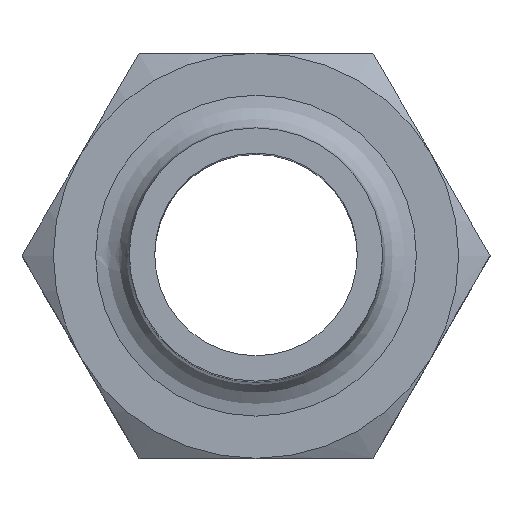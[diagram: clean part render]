
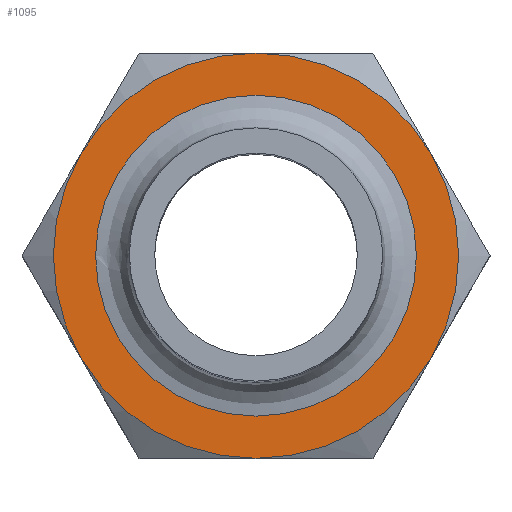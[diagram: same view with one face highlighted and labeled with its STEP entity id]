
A CAD part, top view. The second image highlights one B-rep face of the part: STEP entity #1095.
In plain terms, the highlighted planar face has unit normal (0, 0, 1).
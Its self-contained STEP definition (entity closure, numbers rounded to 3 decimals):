
#552=CARTESIAN_POINT('',(10.392,6.,21.0));
#553=VERTEX_POINT('',#552);
#567=CARTESIAN_POINT('',(0.0,12.,21.0));
#568=VERTEX_POINT('',#567);
#582=CARTESIAN_POINT('',(0.0,0.,21.0));
#583=DIRECTION('',(0.0,0.0,1.0));
#584=DIRECTION('',(0.0,-1.0,0.0));
#585=AXIS2_PLACEMENT_3D('',#582,#583,#584);
#586=CIRCLE('',#585,12.);
#587=EDGE_CURVE('',#553,#568,#586,.T.);
#599=CARTESIAN_POINT('',(10.392,-6.,21.0));
#600=VERTEX_POINT('',#599);
#627=CARTESIAN_POINT('',(0.0,0.,21.0));
#628=DIRECTION('',(0.0,0.0,1.0));
#629=DIRECTION('',(0.0,-1.0,0.0));
#630=AXIS2_PLACEMENT_3D('',#627,#628,#629);
#631=CIRCLE('',#630,12.);
#632=EDGE_CURVE('',#600,#553,#631,.T.);
#644=CARTESIAN_POINT('',(0.0,-12.,21.0));
#645=VERTEX_POINT('',#644);
#672=CARTESIAN_POINT('',(0.0,0.,21.0));
#673=DIRECTION('',(0.0,0.0,1.0));
#674=DIRECTION('',(0.0,-1.0,0.0));
#675=AXIS2_PLACEMENT_3D('',#672,#673,#674);
#676=CIRCLE('',#675,12.);
#677=EDGE_CURVE('',#645,#600,#676,.T.);
#702=CARTESIAN_POINT('',(-10.392,-6.,21.0));
#703=VERTEX_POINT('',#702);
#704=CARTESIAN_POINT('',(0.0,0.,21.0));
#705=DIRECTION('',(0.0,0.0,1.0));
#706=DIRECTION('',(0.0,-1.0,0.0));
#707=AXIS2_PLACEMENT_3D('',#704,#705,#706);
#708=CIRCLE('',#707,12.);
#709=EDGE_CURVE('',#703,#645,#708,.T.);
#747=CARTESIAN_POINT('',(-10.392,6.,21.0));
#748=VERTEX_POINT('',#747);
#749=CARTESIAN_POINT('',(0.0,0.,21.0));
#750=DIRECTION('',(0.0,0.0,1.0));
#751=DIRECTION('',(0.0,-1.0,0.0));
#752=AXIS2_PLACEMENT_3D('',#749,#750,#751);
#753=CIRCLE('',#752,12.);
#754=EDGE_CURVE('',#748,#703,#753,.T.);
#792=CARTESIAN_POINT('',(0.0,0.,21.0));
#793=DIRECTION('',(0.0,0.0,1.0));
#794=DIRECTION('',(0.0,-1.0,0.0));
#795=AXIS2_PLACEMENT_3D('',#792,#793,#794);
#796=CIRCLE('',#795,12.);
#797=EDGE_CURVE('',#568,#748,#796,.T.);
#1036=CARTESIAN_POINT('',(9.5,0.,21.0));
#1037=VERTEX_POINT('',#1036);
#1038=CARTESIAN_POINT('',(0.,0.,21.0));
#1039=DIRECTION('',(0.0,0.0,1.0));
#1040=DIRECTION('',(-1.0,0.0,0.0));
#1041=AXIS2_PLACEMENT_3D('',#1038,#1039,#1040);
#1042=CIRCLE('',#1041,9.5);
#1043=EDGE_CURVE('',#1037,#1037,#1042,.T.);
#1079=CARTESIAN_POINT('',(0.,0.,21.0));
#1080=DIRECTION('',(0.0,0.0,1.0));
#1081=DIRECTION('',(1.0,0.0,0.0));
#1082=AXIS2_PLACEMENT_3D('',#1079,#1080,#1081);
#1083=PLANE('',#1082);
#1084=ORIENTED_EDGE('',*,*,#797,.T.);
#1085=ORIENTED_EDGE('',*,*,#754,.T.);
#1086=ORIENTED_EDGE('',*,*,#709,.T.);
#1087=ORIENTED_EDGE('',*,*,#677,.T.);
#1088=ORIENTED_EDGE('',*,*,#632,.T.);
#1089=ORIENTED_EDGE('',*,*,#587,.T.);
#1090=EDGE_LOOP('',(#1084,#1085,#1086,#1087,#1088,#1089));
#1091=FACE_OUTER_BOUND('',#1090,.T.);
#1092=ORIENTED_EDGE('',*,*,#1043,.F.);
#1093=EDGE_LOOP('',(#1092));
#1094=FACE_BOUND('',#1093,.T.);
#1095=ADVANCED_FACE('',(#1091,#1094),#1083,.T.);
